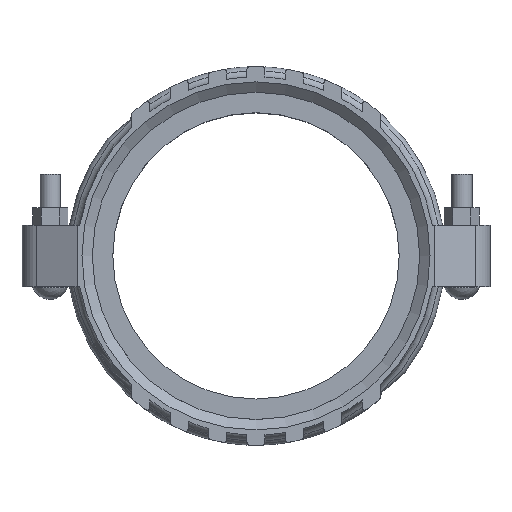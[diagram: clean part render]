
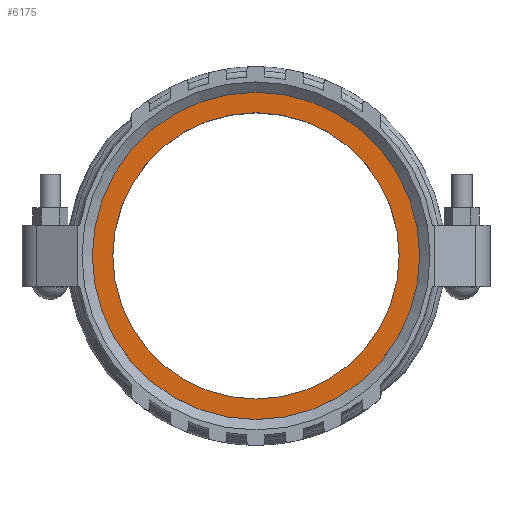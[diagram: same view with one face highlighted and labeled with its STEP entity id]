
A CAD part, top view. The second image highlights one B-rep face of the part: STEP entity #6175.
In plain terms, the highlighted planar face has unit normal (0, 0, 1).
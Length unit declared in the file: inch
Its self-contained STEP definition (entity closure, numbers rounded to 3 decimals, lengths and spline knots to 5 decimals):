
#426=FACE_BOUND('',#1004,.T.);
#707=FACE_OUTER_BOUND('',#1003,.T.);
#1003=EDGE_LOOP('',(#5512,#5513));
#1004=EDGE_LOOP('',(#5514,#5515));
#2123=CIRCLE('',#6862,8.);
#2124=CIRCLE('',#6863,8.);
#2127=CIRCLE('',#6868,7.);
#2128=CIRCLE('',#6869,7.);
#2729=VERTEX_POINT('',#12281);
#2730=VERTEX_POINT('',#12283);
#2733=VERTEX_POINT('',#12292);
#2734=VERTEX_POINT('',#12294);
#3655=EDGE_CURVE('',#2729,#2730,#2123,.T.);
#3656=EDGE_CURVE('',#2730,#2729,#2124,.T.);
#3660=EDGE_CURVE('',#2734,#2733,#2127,.T.);
#3661=EDGE_CURVE('',#2733,#2734,#2128,.T.);
#5512=ORIENTED_EDGE('',*,*,#3656,.F.);
#5513=ORIENTED_EDGE('',*,*,#3655,.F.);
#5514=ORIENTED_EDGE('',*,*,#3660,.T.);
#5515=ORIENTED_EDGE('',*,*,#3661,.T.);
#5611=PLANE('',#6870);
#6175=ADVANCED_FACE('',(#707,#426),#5611,.T.);
#6862=AXIS2_PLACEMENT_3D('',#12284,#8492,#8493);
#6863=AXIS2_PLACEMENT_3D('',#12285,#8494,#8495);
#6868=AXIS2_PLACEMENT_3D('',#12295,#8505,#8506);
#6869=AXIS2_PLACEMENT_3D('',#12296,#8507,#8508);
#6870=AXIS2_PLACEMENT_3D('',#12297,#8509,#8510);
#8492=DIRECTION('center_axis',(0.,0.,-1.));
#8493=DIRECTION('ref_axis',(1.,0.,0.));
#8494=DIRECTION('center_axis',(0.,0.,-1.));
#8495=DIRECTION('ref_axis',(1.,0.,0.));
#8505=DIRECTION('center_axis',(0.,0.,-1.));
#8506=DIRECTION('ref_axis',(1.,0.,0.));
#8507=DIRECTION('center_axis',(0.,0.,-1.));
#8508=DIRECTION('ref_axis',(1.,0.,0.));
#8509=DIRECTION('center_axis',(0.,0.,1.));
#8510=DIRECTION('ref_axis',(1.,0.,0.));
#12281=CARTESIAN_POINT('',(0.,-8.,3.));
#12283=CARTESIAN_POINT('',(0.,8.,3.));
#12284=CARTESIAN_POINT('Origin',(0.,0.,3.));
#12285=CARTESIAN_POINT('Origin',(0.,0.,3.));
#12292=CARTESIAN_POINT('',(0.,-7.,3.));
#12294=CARTESIAN_POINT('',(0.,7.,3.));
#12295=CARTESIAN_POINT('Origin',(0.,0.,3.));
#12296=CARTESIAN_POINT('Origin',(0.,0.,3.));
#12297=CARTESIAN_POINT('Origin',(0.,8.,3.));
